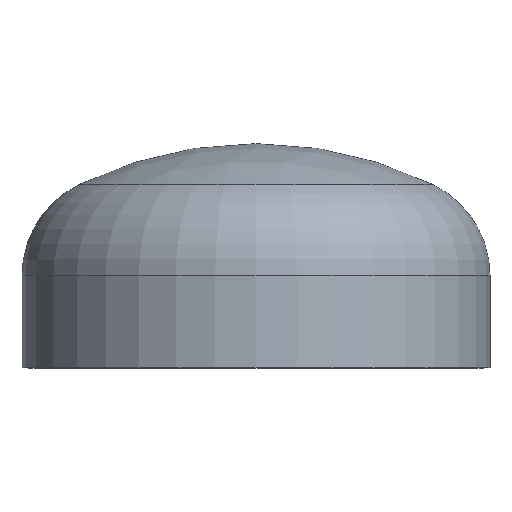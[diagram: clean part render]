
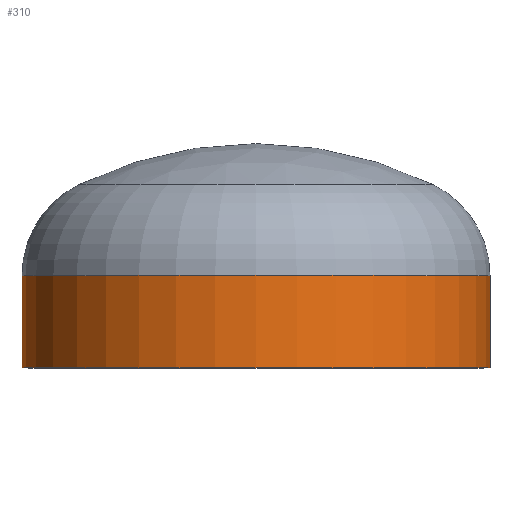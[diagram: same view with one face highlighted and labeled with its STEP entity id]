
A CAD part, top view. The second image highlights one B-rep face of the part: STEP entity #310.
In plain terms, the highlighted cylindrical face has radius 177.8 mm (diameter 355.6 mm), a partial arc.
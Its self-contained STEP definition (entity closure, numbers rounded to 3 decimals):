
#4 = DIRECTION ( 'NONE',  ( 1., 0., 0. ) ) ;
#12 = CARTESIAN_POINT ( 'NONE',  ( -177.8, 0., 0. ) ) ;
#37 = AXIS2_PLACEMENT_3D ( 'NONE', #131, #132, #4 ) ;
#49 = EDGE_LOOP ( 'NONE', ( #153, #135, #62, #259 ) ) ;
#54 = VERTEX_POINT ( 'NONE', #240 ) ;
#58 = AXIS2_PLACEMENT_3D ( 'NONE', #206, #342, #341 ) ;
#62 = ORIENTED_EDGE ( 'NONE', *, *, #356, .F. ) ;
#64 = VERTEX_POINT ( 'NONE', #243 ) ;
#65 = VERTEX_POINT ( 'NONE', #235 ) ;
#81 = EDGE_CURVE ( 'NONE', #65, #101, #237, .T. ) ;
#101 = VERTEX_POINT ( 'NONE', #296 ) ;
#114 = CARTESIAN_POINT ( 'NONE',  ( 0., 0., 0. ) ) ;
#116 = DIRECTION ( 'NONE',  ( 0., -1., 0. ) ) ;
#131 = CARTESIAN_POINT ( 'NONE',  ( 0., 0., 0. ) ) ;
#132 = DIRECTION ( 'NONE',  ( 0., -1., 0. ) ) ;
#135 = ORIENTED_EDGE ( 'NONE', *, *, #362, .T. ) ;
#153 = ORIENTED_EDGE ( 'NONE', *, *, #81, .T. ) ;
#166 = CARTESIAN_POINT ( 'NONE',  ( 177.8, 0., 0. ) ) ;
#172 = DIRECTION ( 'NONE',  ( 1., 0., 0. ) ) ;
#173 = LINE ( 'NONE', #166, #291 ) ;
#191 = CIRCLE ( 'NONE', #37, 177.8 ) ;
#206 = CARTESIAN_POINT ( 'NONE',  ( 0., 70., 0. ) ) ;
#235 = CARTESIAN_POINT ( 'NONE',  ( 177.8, 70., 0. ) ) ;
#237 = CIRCLE ( 'NONE', #58, 177.8 ) ;
#240 = CARTESIAN_POINT ( 'NONE',  ( 177.8, 0., 0. ) ) ;
#242 = VECTOR ( 'NONE', #276, 1000. ) ;
#243 = CARTESIAN_POINT ( 'NONE',  ( -177.8, 0., 0. ) ) ;
#259 = ORIENTED_EDGE ( 'NONE', *, *, #369, .F. ) ;
#276 = DIRECTION ( 'NONE',  ( 0., -1., 0. ) ) ;
#291 = VECTOR ( 'NONE', #351, 1000. ) ;
#296 = CARTESIAN_POINT ( 'NONE',  ( -177.8, 70., 0. ) ) ;
#310 = ADVANCED_FACE ( 'NONE', ( #388 ), #320, .T. ) ;
#320 = CYLINDRICAL_SURFACE ( 'NONE', #361, 177.8 ) ;
#341 = DIRECTION ( 'NONE',  ( 1., 0., 0. ) ) ;
#342 = DIRECTION ( 'NONE',  ( 0., -1., 0. ) ) ;
#351 = DIRECTION ( 'NONE',  ( 0., -1., 0. ) ) ;
#356 = EDGE_CURVE ( 'NONE', #54, #64, #191, .T. ) ;
#361 = AXIS2_PLACEMENT_3D ( 'NONE', #114, #116, #172 ) ;
#362 = EDGE_CURVE ( 'NONE', #101, #64, #371, .T. ) ;
#369 = EDGE_CURVE ( 'NONE', #65, #54, #173, .T. ) ;
#371 = LINE ( 'NONE', #12, #242 ) ;
#388 = FACE_OUTER_BOUND ( 'NONE', #49, .T. ) ;
